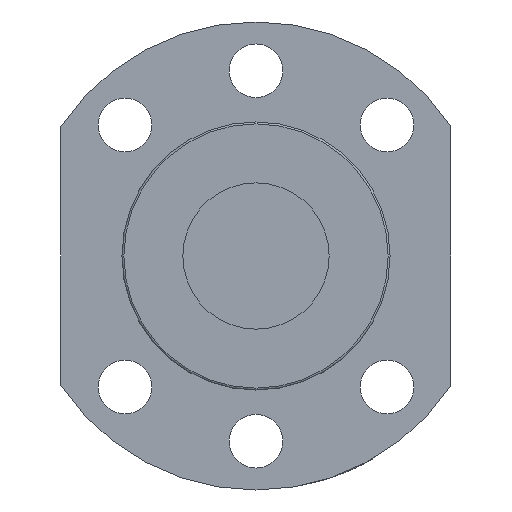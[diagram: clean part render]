
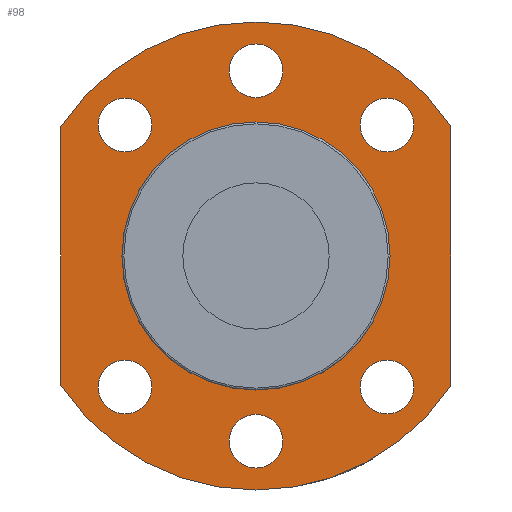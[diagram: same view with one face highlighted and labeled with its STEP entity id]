
A CAD part, front view. The second image highlights one B-rep face of the part: STEP entity #98.
In plain terms, the highlighted planar face has unit normal (0, -1, 0).
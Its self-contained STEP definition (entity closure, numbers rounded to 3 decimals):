
#98=ADVANCED_FACE('',(#169,#170,#171,#172,#173,#174,#175,#176),#139,.F.);
#139=PLANE('',#611);
#149=LINE('',#858,#159);
#150=LINE('',#862,#160);
#159=VECTOR('',#694,1.);
#160=VECTOR('',#697,1.);
#169=FACE_BOUND('',#241,.T.);
#170=FACE_BOUND('',#242,.T.);
#171=FACE_BOUND('',#243,.T.);
#172=FACE_BOUND('',#244,.T.);
#173=FACE_BOUND('',#245,.T.);
#174=FACE_BOUND('',#246,.T.);
#175=FACE_BOUND('',#247,.T.);
#176=FACE_BOUND('',#248,.T.);
#241=EDGE_LOOP('',(#324));
#242=EDGE_LOOP('',(#325));
#243=EDGE_LOOP('',(#326));
#244=EDGE_LOOP('',(#327));
#245=EDGE_LOOP('',(#328));
#246=EDGE_LOOP('',(#329));
#247=EDGE_LOOP('',(#330,#331,#332,#333));
#248=EDGE_LOOP('',(#334));
#324=ORIENTED_EDGE('',*,*,#501,.T.);
#325=ORIENTED_EDGE('',*,*,#502,.T.);
#326=ORIENTED_EDGE('',*,*,#503,.T.);
#327=ORIENTED_EDGE('',*,*,#504,.T.);
#328=ORIENTED_EDGE('',*,*,#505,.T.);
#329=ORIENTED_EDGE('',*,*,#506,.T.);
#330=ORIENTED_EDGE('',*,*,#507,.T.);
#331=ORIENTED_EDGE('',*,*,#508,.T.);
#332=ORIENTED_EDGE('',*,*,#509,.T.);
#333=ORIENTED_EDGE('',*,*,#510,.F.);
#334=ORIENTED_EDGE('',*,*,#511,.F.);
#448=VERTEX_POINT('',#844);
#449=VERTEX_POINT('',#846);
#450=VERTEX_POINT('',#848);
#451=VERTEX_POINT('',#850);
#452=VERTEX_POINT('',#852);
#453=VERTEX_POINT('',#854);
#454=VERTEX_POINT('',#856);
#455=VERTEX_POINT('',#857);
#456=VERTEX_POINT('',#859);
#457=VERTEX_POINT('',#861);
#458=VERTEX_POINT('',#864);
#501=EDGE_CURVE('',#448,#448,#563,.T.);
#502=EDGE_CURVE('',#449,#449,#564,.T.);
#503=EDGE_CURVE('',#450,#450,#565,.T.);
#504=EDGE_CURVE('',#451,#451,#566,.T.);
#505=EDGE_CURVE('',#452,#452,#567,.T.);
#506=EDGE_CURVE('',#453,#453,#568,.T.);
#507=EDGE_CURVE('',#454,#455,#569,.T.);
#508=EDGE_CURVE('',#455,#456,#149,.T.);
#509=EDGE_CURVE('',#456,#457,#570,.T.);
#510=EDGE_CURVE('',#454,#457,#150,.T.);
#511=EDGE_CURVE('',#458,#458,#571,.T.);
#563=CIRCLE('',#602,2.75);
#564=CIRCLE('',#603,2.75);
#565=CIRCLE('',#604,2.75);
#566=CIRCLE('',#605,2.75);
#567=CIRCLE('',#606,2.75);
#568=CIRCLE('',#607,2.75);
#569=CIRCLE('',#608,24.);
#570=CIRCLE('',#609,24.);
#571=CIRCLE('',#610,13.55);
#602=AXIS2_PLACEMENT_3D('',#843,#680,#681);
#603=AXIS2_PLACEMENT_3D('',#845,#682,#683);
#604=AXIS2_PLACEMENT_3D('',#847,#684,#685);
#605=AXIS2_PLACEMENT_3D('',#849,#686,#687);
#606=AXIS2_PLACEMENT_3D('',#851,#688,#689);
#607=AXIS2_PLACEMENT_3D('',#853,#690,#691);
#608=AXIS2_PLACEMENT_3D('',#855,#692,#693);
#609=AXIS2_PLACEMENT_3D('',#860,#695,#696);
#610=AXIS2_PLACEMENT_3D('',#863,#698,#699);
#611=AXIS2_PLACEMENT_3D('',#865,#700,#701);
#680=DIRECTION('',(0.,1.,0.));
#681=DIRECTION('',(0.,0.,1.));
#682=DIRECTION('',(0.,1.,0.));
#683=DIRECTION('',(0.,0.,1.));
#684=DIRECTION('',(0.,1.,0.));
#685=DIRECTION('',(0.,0.,1.));
#686=DIRECTION('',(0.,1.,0.));
#687=DIRECTION('',(0.,0.,1.));
#688=DIRECTION('',(0.,1.,0.));
#689=DIRECTION('',(0.,0.,1.));
#690=DIRECTION('',(0.,1.,0.));
#691=DIRECTION('',(0.,0.,1.));
#692=DIRECTION('',(0.,-1.,0.));
#693=DIRECTION('',(0.,0.,-1.));
#694=DIRECTION('',(0.,0.,-1.));
#695=DIRECTION('',(0.,-1.,0.));
#696=DIRECTION('',(0.,0.,-1.));
#697=DIRECTION('',(0.,0.,-1.));
#698=DIRECTION('',(0.,-1.,0.));
#699=DIRECTION('',(1.,0.,0.));
#700=DIRECTION('',(0.,1.,0.));
#701=DIRECTION('',(0.,0.,1.));
#843=CARTESIAN_POINT('',(13.435,-37.75,13.435));
#844=CARTESIAN_POINT('',(13.435,-37.75,16.185));
#845=CARTESIAN_POINT('',(0.,-37.75,19.));
#846=CARTESIAN_POINT('',(0.,-37.75,21.75));
#847=CARTESIAN_POINT('',(-13.435,-37.75,13.435));
#848=CARTESIAN_POINT('',(-13.435,-37.75,16.185));
#849=CARTESIAN_POINT('',(-13.435,-37.75,-13.435));
#850=CARTESIAN_POINT('',(-13.435,-37.75,-10.685));
#851=CARTESIAN_POINT('',(0.,-37.75,-19.));
#852=CARTESIAN_POINT('',(0.,-37.75,-16.25));
#853=CARTESIAN_POINT('',(13.435,-37.75,-13.435));
#854=CARTESIAN_POINT('',(13.435,-37.75,-10.685));
#855=CARTESIAN_POINT('',(0.,-37.75,0.));
#856=CARTESIAN_POINT('',(20.,-37.75,13.266));
#857=CARTESIAN_POINT('',(-20.,-37.75,13.266));
#858=CARTESIAN_POINT('',(-20.,-37.75,24.));
#859=CARTESIAN_POINT('',(-20.,-37.75,-13.266));
#860=CARTESIAN_POINT('',(0.,-37.75,0.));
#861=CARTESIAN_POINT('',(20.,-37.75,-13.266));
#862=CARTESIAN_POINT('',(20.,-37.75,24.));
#863=CARTESIAN_POINT('',(0.,-37.75,0.));
#864=CARTESIAN_POINT('',(13.55,-37.75,0.));
#865=CARTESIAN_POINT('',(0.,-37.75,24.));
